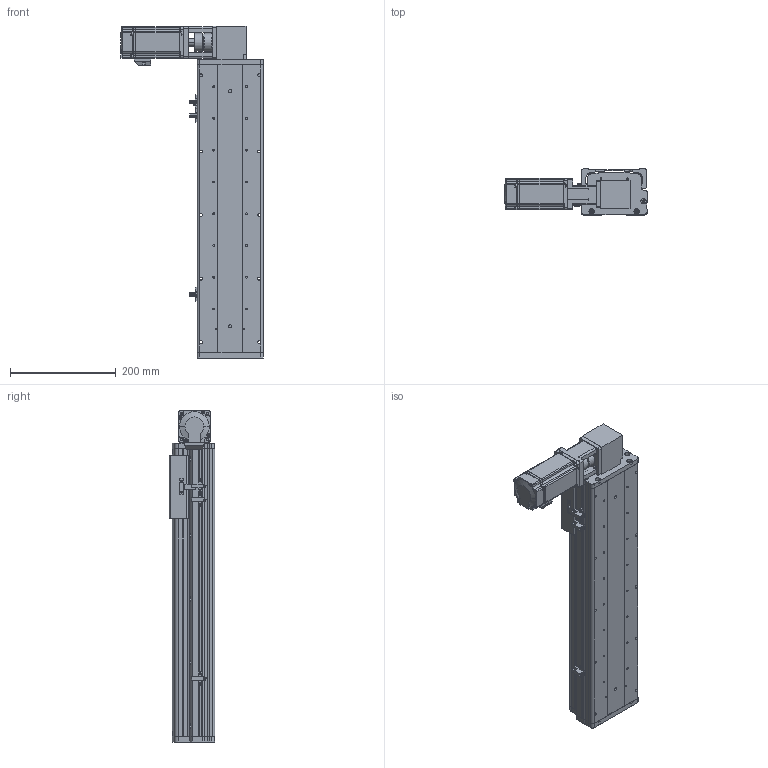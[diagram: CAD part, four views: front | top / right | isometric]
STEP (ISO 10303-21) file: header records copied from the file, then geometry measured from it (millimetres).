
FILE_DESCRIPTION (( 'STEP AP214' ), '1' );
FILE_NAME ('KSD125B-S350-MRT-CM.STEP', '2017-08-07T07:18:59', ( '微软用户' ), ( '微软中国' ), 'SwSTEP 2.0', 'SolidWorks 2014', '' );
FILE_SCHEMA (( 'AUTOMOTIVE_DESIGN' ));
Length unit declared in the file: millimetre
Products named in the file (16): KSD125模组同步带-防撞垫2; CS-34X32-10X14; 100遵鎮湛假蚾啣1 ; 覜茼え68遵圉猾敕; U倰嫖萇假蚾璃; U倰嫖萇EEㄜSX672; KSD125模组同步带-防撞垫1; 100宽安装板同步带带电机座400W,86; 100宽马达安装板同步带右; 前端板-125宽模组同步带; 125模组同步带-尾端板1; KSD125模组同步带-滑动座1; KSD125B-S350-MRT-CM; KSD125模组350行程同步带-防尘盖; 125模组350行程同步带-底板; MHMD042G1CA_2_03
Assembly tree (19 placements, depth 2):
  KSD125B-S350-MRT-CM
    KSD125模组同步带-滑动座1
    125模组同步带-尾端板1
    前端板-125宽模组同步带
    100宽马达安装板同步带右
    100宽安装板同步带带电机座400W,86
    KSD125模组同步带-防撞垫1
    U倰嫖萇EEㄜSX672  x3
    U倰嫖萇假蚾璃  x3
    覜茼え68遵圉猾敕
    100遵鎮湛假蚾啣1 
    CS-34X32-10X14
    KSD125模组同步带-防撞垫2
    MHMD042G1CA_2_03
    125模组350行程同步带-底板
    KSD125模组350行程同步带-防尘盖
Bounding box: 269 x 86 x 627 mm (x, y, z)
Volume: 2174874.4 mm3; surface area: 740900.2 mm2
Topology: 18 solids, 21 shells, 1620 faces, 4636 edges, 3056 vertices
Faces by surface type: cylinder 821, plane 696, cone 81, bspline 22
Entity records: 56484 total; most frequent: CARTESIAN_POINT 11486, DIRECTION 8251, ORIENTED_EDGE 7792, EDGE_CURVE 3974, AXIS2_PLACEMENT_3D 3045, VERTEX_POINT 2648, LINE 2161, VECTOR 2161
